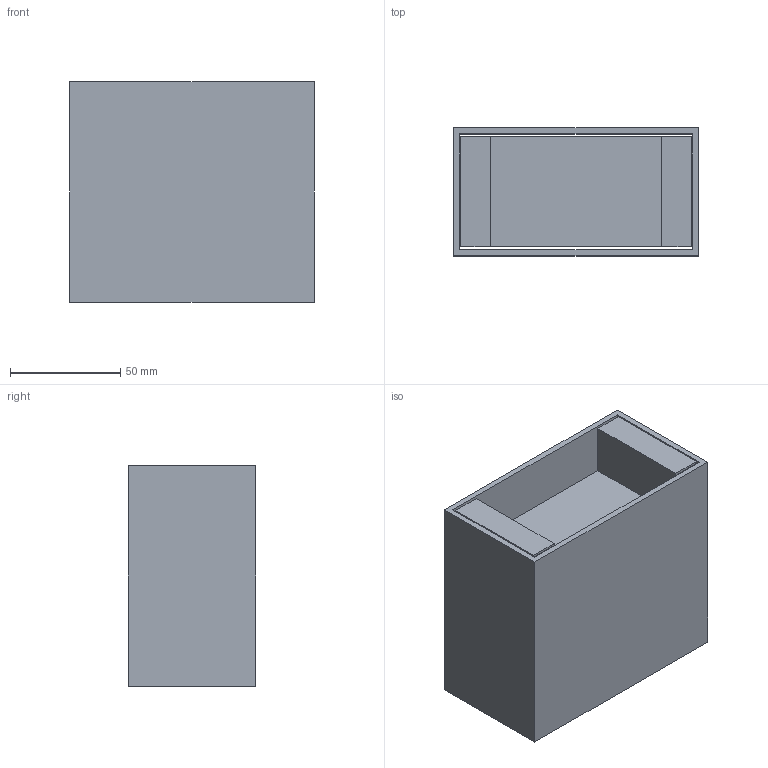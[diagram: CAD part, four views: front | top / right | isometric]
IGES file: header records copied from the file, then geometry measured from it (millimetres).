
Start section: SolidWorks IGES file using analytic representation for surfaces
Global section: file name: X:\PRODUKT\Modele 3D_WWW\_KOLEKCJE WWW\GAP-9385-9384\GAP-9385-9384.IGS; native system: SolidWorks 2021; preprocessor: SolidWorks 2021; author: gabriela.tworek; date: 220927.101642; units: millimetre
Bounding box: 111 x 58 x 100 mm (x, y, z)
Surface area: 108813.5 mm2 (no closed solid volume)
Topology: 0 solids, 0 shells, 54 faces, 194 edges, 178 vertices
Faces by surface type: bspline 38, revolution 16
